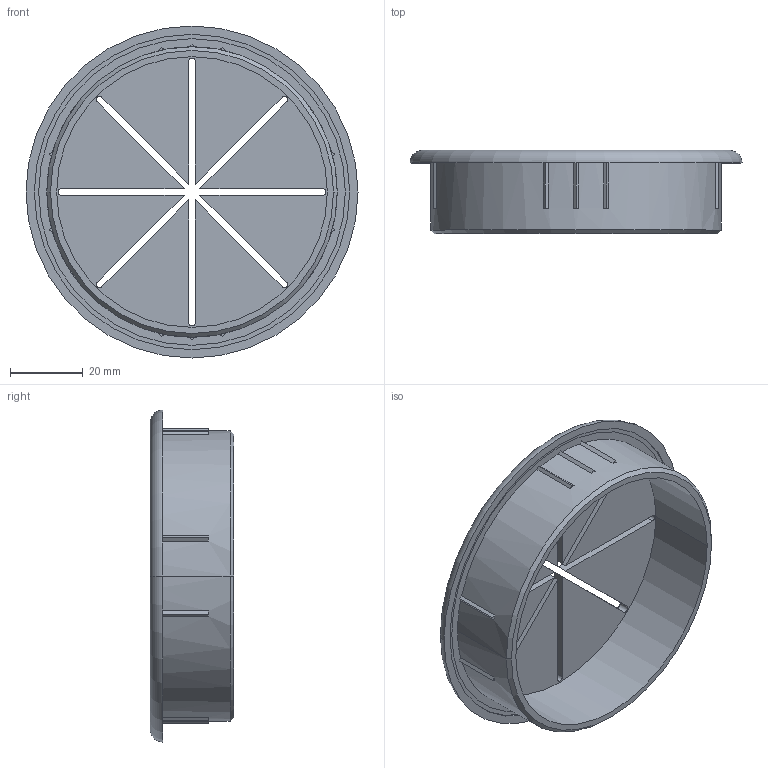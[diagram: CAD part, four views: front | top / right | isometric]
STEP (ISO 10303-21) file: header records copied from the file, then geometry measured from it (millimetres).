
FILE_DESCRIPTION((''),'2;1');
FILE_NAME('3515ASA_ASM','2021-09-08T12:08:27',('Mateo'),(''),'CREO PARAMETRIC BY PTC INC, 2020454','CREO PARAMETRIC BY PTC INC, 2020454','');
FILE_SCHEMA(('CONFIG_CONTROL_DESIGN'));
Length unit declared in the file: millimetre
Products named in the file (3): 3515ASA_GHIERA; 3515ASA_GOMMA; 3515ASA_ASM
Assembly tree (2 placements, depth 2):
  3515ASA_ASM
    3515ASA_GHIERA
    3515ASA_GOMMA
Bounding box: 91.5 x 23 x 91.5 mm (x, y, z)
Volume: 30828.6 mm3; surface area: 27083.4 mm2
Topology: 3 solids, 3 shells, 74 faces, 200 edges, 132 vertices
Faces by surface type: plane 52, cylinder 18, torus 2, cone 2
Entity records: 2432 total; most frequent: DIRECTION 420, CARTESIAN_POINT 411, ORIENTED_EDGE 400, EDGE_CURVE 200, AXIS2_PLACEMENT_3D 141, VECTOR 138, LINE 138, VERTEX_POINT 132
